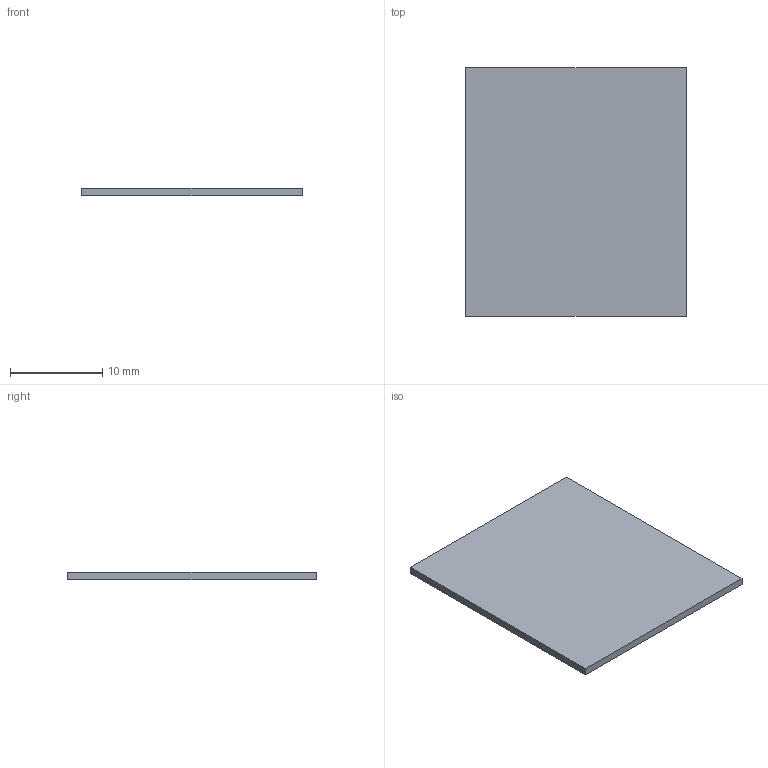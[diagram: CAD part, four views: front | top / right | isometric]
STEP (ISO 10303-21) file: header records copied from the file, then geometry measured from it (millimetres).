
FILE_DESCRIPTION(('Open CASCADE Model'),'2;1');
FILE_NAME('Open CASCADE Shape Model','2026-10-27T13:08:00',('Author'),( 'Open CASCADE'),'Open CASCADE STEP processor 7.9','Open CASCADE 7.9' ,'Unknown');
FILE_SCHEMA(('AUTOMOTIVE_DESIGN { 1 0 10303 214 1 1 1 1 }'));
Length unit declared in the file: millimetre
Products named in the file (1): Open CASCADE STEP translator 7.9 4
Bounding box: 24 x 27 x 0.83 mm (x, y, z)
Volume: 535.5 mm3; surface area: 1380.3 mm2
Topology: 1 solids, 1 shells, 6 faces, 12 edges, 8 vertices
Faces by surface type: plane 6
Entity records: 322 total; most frequent: CARTESIAN_POINT 51, DIRECTION 50, LINE 36, VECTOR 36, ORIENTED_EDGE 24, PCURVE 24, DEFINITIONAL_REPRESENTATION 24, EDGE_CURVE 12
